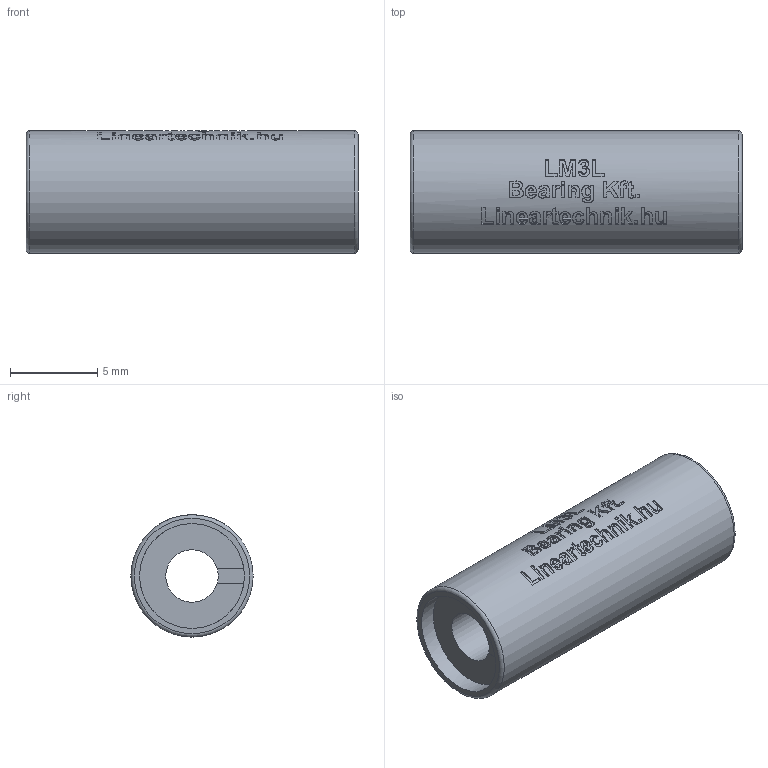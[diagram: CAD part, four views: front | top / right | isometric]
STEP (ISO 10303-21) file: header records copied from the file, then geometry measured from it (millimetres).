
FILE_DESCRIPTION(/* description */ (''),/* implementation_level */ '2;1');
FILE_NAME(/* name */ 'LM3L',/* time_stamp */ '2019-05-16T09:38:51+02:00',/* author */ ('VĂ©gh MĂˇtĂ©'),/* organization */ ('Bearing Kft'),/* preprocessor_version */ 'ST-DEVELOPER v16.7',/* originating_system */ 'DEX',/* authorisation */ $);
FILE_SCHEMA (('AUTOMOTIVE_DESIGN {1 0 10303 214 3 1 1}'));
Length unit declared in the file: millimetre
Products named in the file (1): LM3L
Bounding box: 19 x 7 x 7 mm (x, y, z)
Volume: 555.3 mm3; surface area: 685.1 mm2
Topology: 1 solids, 1 shells, 298 faces, 788 edges, 523 vertices
Faces by surface type: plane 157, bspline 91, cylinder 48, torus 2
Full cylindrical faces by diameter (mm): 3 x1, 6 x2, 7 x1
Entity records: 12864 total; most frequent: CARTESIAN_POINT 6205, ORIENTED_EDGE 1486, DIRECTION 1111, EDGE_CURVE 743, VERTEX_POINT 497, LINE 411, VECTOR 411, AXIS2_PLACEMENT_3D 350
